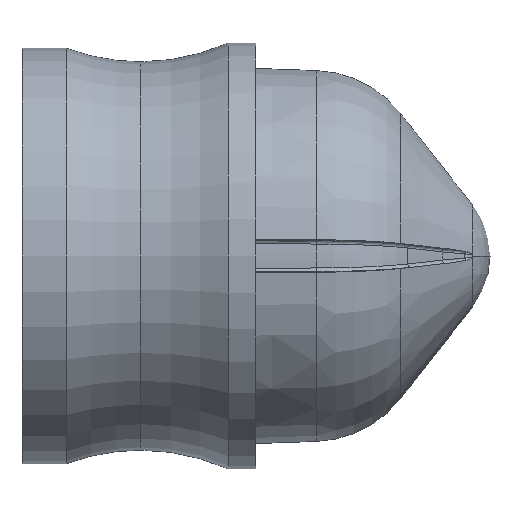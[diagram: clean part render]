
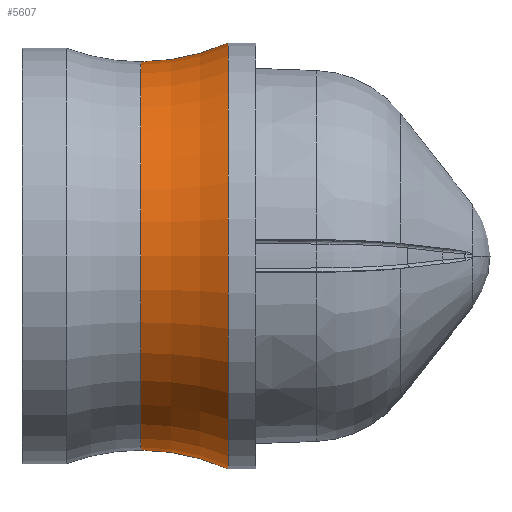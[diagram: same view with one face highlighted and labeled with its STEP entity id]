
A CAD part, left-side view. The second image highlights one B-rep face of the part: STEP entity #5607.
In plain terms, the highlighted toroidal (fillet/blend) face has major radius 9.255 mm and minor radius 4.826 mm.
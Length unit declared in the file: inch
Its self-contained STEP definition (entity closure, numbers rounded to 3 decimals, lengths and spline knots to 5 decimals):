
#118 = CIRCLE ( 'NONE', #7603, 0.17439 ) ;
#734 = EDGE_CURVE ( 'NONE', #8518, #9886, #118, .T. ) ;
#876 = VERTEX_POINT ( 'NONE', #8575 ) ;
#1212 = CIRCLE ( 'NONE', #1384, 0.19 ) ;
#1289 = ORIENTED_EDGE ( 'NONE', *, *, #1395, .F. ) ;
#1352 = CARTESIAN_POINT ( 'NONE',  ( 0., 0.055, 0.19125 ) ) ;
#1384 = AXIS2_PLACEMENT_3D ( 'NONE', #4897, #6615, #7289 ) ;
#1395 = EDGE_CURVE ( 'NONE', #9886, #5669, #1212, .T. ) ;
#1623 = DIRECTION ( 'NONE',  ( 1., 0., 0. ) ) ;
#1685 = CARTESIAN_POINT ( 'NONE',  ( 0., 0.055, 0. ) ) ;
#1715 = EDGE_CURVE ( 'NONE', #8518, #876, #4946, .T. ) ;
#1776 = FACE_OUTER_BOUND ( 'NONE', #10933, .T. ) ;
#1843 = AXIS2_PLACEMENT_3D ( 'NONE', #1685, #11014, #5982 ) ;
#3059 = DIRECTION ( 'NONE',  ( 0., 1., 0. ) ) ;
#3486 = ORIENTED_EDGE ( 'NONE', *, *, #734, .F. ) ;
#4056 = DIRECTION ( 'NONE',  ( 0., 0., -1. ) ) ;
#4473 = DIRECTION ( 'NONE',  ( 0., 0., 1. ) ) ;
#4897 = CARTESIAN_POINT ( 'NONE',  ( 0., 0.13325, 0.36439 ) ) ;
#4946 = CIRCLE ( 'NONE', #6033, 0.19 ) ;
#5023 = DIRECTION ( 'NONE',  ( 0., 1., 0. ) ) ;
#5350 = CARTESIAN_POINT ( 'NONE',  ( 0., 0.13325, 0. ) ) ;
#5607 = ADVANCED_FACE ( 'NONE', ( #1776 ), #8276, .F. ) ;
#5669 = VERTEX_POINT ( 'NONE', #1352 ) ;
#5751 = CIRCLE ( 'NONE', #1843, 0.19125 ) ;
#5808 = AXIS2_PLACEMENT_3D ( 'NONE', #5350, #3059, #4473 ) ;
#5982 = DIRECTION ( 'NONE',  ( 0., 0., 1. ) ) ;
#6033 = AXIS2_PLACEMENT_3D ( 'NONE', #11010, #1623, #4056 ) ;
#6609 = ORIENTED_EDGE ( 'NONE', *, *, #9218, .T. ) ;
#6615 = DIRECTION ( 'NONE',  ( -1., 0., 0. ) ) ;
#7289 = DIRECTION ( 'NONE',  ( 0., 0., 1. ) ) ;
#7603 = AXIS2_PLACEMENT_3D ( 'NONE', #9284, #5023, #9961 ) ;
#7646 = CARTESIAN_POINT ( 'NONE',  ( 0., 0.13325, -0.17439 ) ) ;
#8276 = TOROIDAL_SURFACE ( 'NONE', #5808, 0.36439, 0.19 ) ;
#8518 = VERTEX_POINT ( 'NONE', #7646 ) ;
#8575 = CARTESIAN_POINT ( 'NONE',  ( 0., 0.055, -0.19125 ) ) ;
#8977 = CARTESIAN_POINT ( 'NONE',  ( 0., 0.13325, 0.17439 ) ) ;
#9218 = EDGE_CURVE ( 'NONE', #876, #5669, #5751, .T. ) ;
#9284 = CARTESIAN_POINT ( 'NONE',  ( 0., 0.13325, 0. ) ) ;
#9886 = VERTEX_POINT ( 'NONE', #8977 ) ;
#9961 = DIRECTION ( 'NONE',  ( 0., 0., 1. ) ) ;
#10933 = EDGE_LOOP ( 'NONE', ( #3486, #11011, #6609, #1289 ) ) ;
#11010 = CARTESIAN_POINT ( 'NONE',  ( 0., 0.13325, -0.36439 ) ) ;
#11011 = ORIENTED_EDGE ( 'NONE', *, *, #1715, .T. ) ;
#11014 = DIRECTION ( 'NONE',  ( 0., 1., 0. ) ) ;
